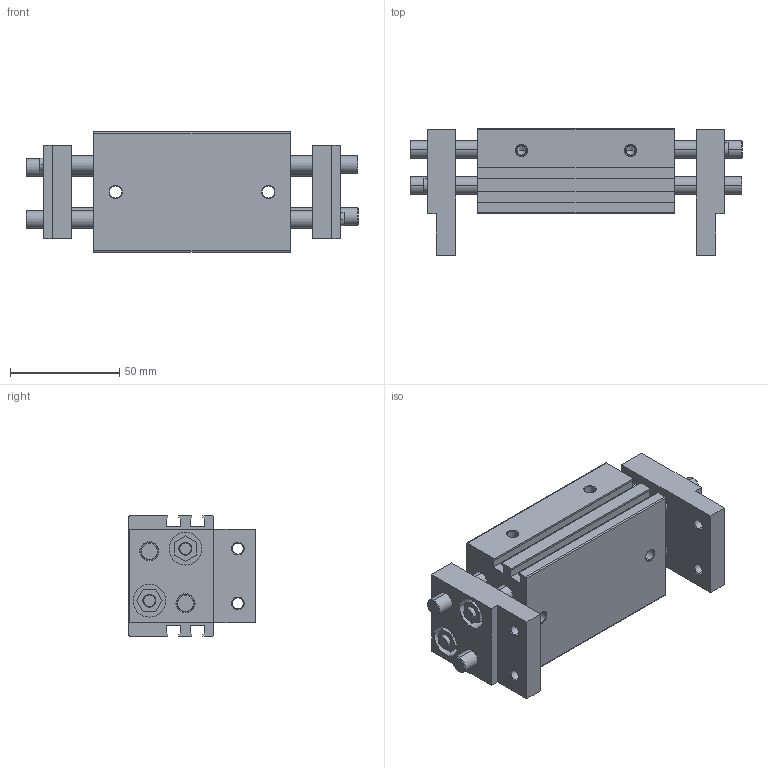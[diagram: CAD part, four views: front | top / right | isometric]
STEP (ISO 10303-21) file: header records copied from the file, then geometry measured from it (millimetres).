
FILE_DESCRIPTION (( 'STEP AP203' ), '1' );
FILE_NAME ('CHL2-16D1.STEP', '2017-06-06T20:21:01', ( '' ), ( '' ), 'SwSTEP 2.0', 'SolidWorks 2016', '' );
FILE_SCHEMA (( 'CONFIG_CONTROL_DESIGN' ));
Length unit declared in the file: millimetre
Products named in the file (3): CHL2-16D1 DEDO; CHL2-16D1; CHL2-16D1 CORPO
Assembly tree (3 placements, depth 2):
  CHL2-16D1
    CHL2-16D1 CORPO
    CHL2-16D1 DEDO  x2
Bounding box: 152 x 58 x 55 mm (x, y, z)
Volume: 231266 mm3; surface area: 70642.5 mm2
Topology: 3 solids, 3 shells, 347 faces, 809 edges, 503 vertices
Faces by surface type: cylinder 127, plane 125, cone 95
Entity records: 7799 total; most frequent: DIRECTION 1398, CARTESIAN_POINT 1251, ORIENTED_EDGE 1202, EDGE_CURVE 601, AXIS2_PLACEMENT_3D 528, VERTEX_POINT 381, VECTOR 342, LINE 342
